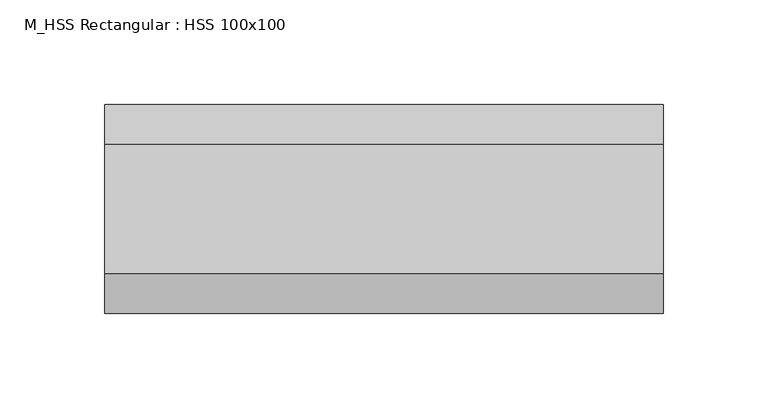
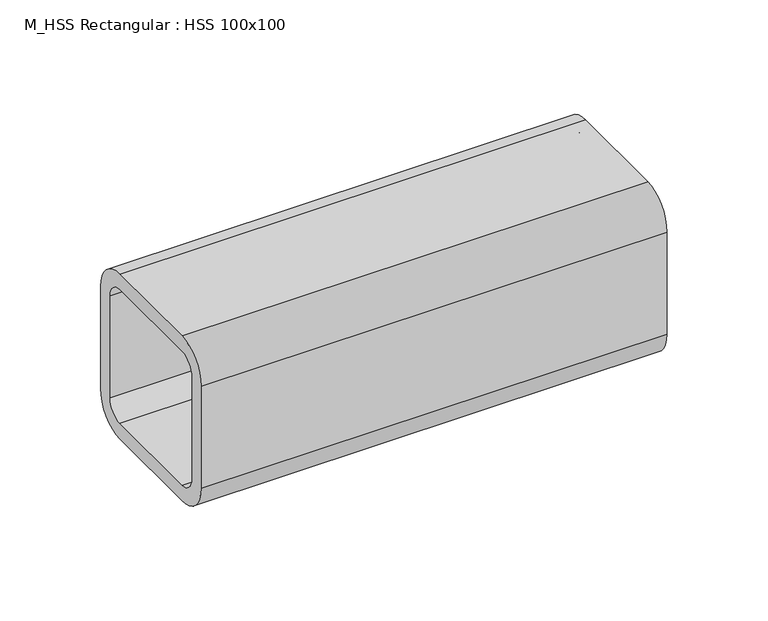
"""IFC4 building model written with IfcOpenShell, lengths in millimetres: beam geometry, M_HSS Rectangular : HSS 100x100."""

from ifc_helpers import new_model, si_unit, point, frame, frame_2d, origin, place, context, project, spatial, polyline, circle_curve, trimmed, segment, composite_curve, outline, extrude, source, transform, mapped, element, save


def m_hss_rectangular_hss_100x100_4e9eaf21(model_context):
    return source(origin(), model_context, "Body", "SweptSolid", [
        extrude(outline(composite_curve([segment(polyline([(50.0, 30.94), (50.0, -30.94)]), True, "CONTINUOUS"), segment(trimmed(circle_curve(frame_2d((30.94, -30.94)), 19.06), [point((50.0, -30.94))], [point((30.94, -50.0))], False, "CARTESIAN"), True, "CONTINUOUS"), segment(polyline([(30.94, -50.0), (-30.94, -50.0)]), True, "CONTINUOUS"), segment(trimmed(circle_curve(frame_2d((-30.94, -30.94)), 19.06), [point((-30.94, -50.0))], [point((-50.0, -30.94))], False, "CARTESIAN"), True, "CONTINUOUS"), segment(polyline([(-50.0, -30.94), (-50.0, 30.94)]), True, "CONTINUOUS"), segment(trimmed(circle_curve(frame_2d((-30.94, 30.94)), 19.06), [point((-50.0, 30.94))], [point((-30.94, 50.0))], False, "CARTESIAN"), True, "CONTINUOUS"), segment(polyline([(-30.94, 50.0), (30.94, 50.0)]), True, "CONTINUOUS"), segment(trimmed(circle_curve(frame_2d((30.94, 30.94)), 19.06), [point((30.94, 50.0))], [point((50.0, 30.94))], False, "CARTESIAN"), True, "CONTINUOUS")], self_intersect=False), holes=[composite_curve([segment(trimmed(circle_curve(frame_2d((-30.94, 30.94)), 9.53), [point((-30.94, 40.47))], [point((-40.47, 30.94))], True, "CARTESIAN"), True, "CONTINUOUS"), segment(polyline([(-40.47, 30.94), (-40.47, -30.94)]), True, "CONTINUOUS"), segment(trimmed(circle_curve(frame_2d((-30.94, -30.94)), 9.53), [point((-40.47, -30.94))], [point((-30.94, -40.47))], True, "CARTESIAN"), True, "CONTINUOUS"), segment(polyline([(-30.94, -40.47), (30.94, -40.47)]), True, "CONTINUOUS"), segment(trimmed(circle_curve(frame_2d((30.94, -30.94)), 9.53), [point((30.94, -40.47))], [point((40.47, -30.94))], True, "CARTESIAN"), True, "CONTINUOUS"), segment(polyline([(40.47, -30.94), (40.47, 30.94)]), True, "CONTINUOUS"), segment(trimmed(circle_curve(frame_2d((30.94, 30.94)), 9.53), [point((40.47, 30.94))], [point((30.94, 40.47))], True, "CARTESIAN"), True, "CONTINUOUS"), segment(polyline([(30.94, 40.47), (-30.94, 40.47)]), True, "CONTINUOUS")], self_intersect=False)]), frame((-102.3, 0.0, 0.0), z_axis=(1.0, 0.0, 0.0), x_axis=(0.0, 1.0, 0.0)), (0.0, 0.0, 1.0), 267.3),
    ])


if __name__ == "__main__":
    model = new_model("IFC4")
    model_context = context("Model", 3, world=origin())
    ifc_project = project(units=[si_unit("LENGTHUNIT", "METRE", prefix="MILLI")], contexts=[model_context])
    site = spatial("IfcSite", under=ifc_project)
    building = spatial("IfcBuilding", under=site)
    placement = place(None, origin())
    m_hss_rectangular_hss_100x100_shape = m_hss_rectangular_hss_100x100_4e9eaf21(model_context)
    element("IfcBeam", 1, ObjectType="M_HSS Rectangular : HSS 100x100", at=placement, inside=building, context=model_context, shape_type="MappedRepresentation", body=[
        mapped(m_hss_rectangular_hss_100x100_shape, transform((0.0, 0.0, 0.0), x_axis=(1.0, 0.0, 0.0), y_axis=(0.0, 1.0, 0.0), z_axis=(0.0, 0.0, 1.0))),
    ])
    save(model, "model.ifc")
